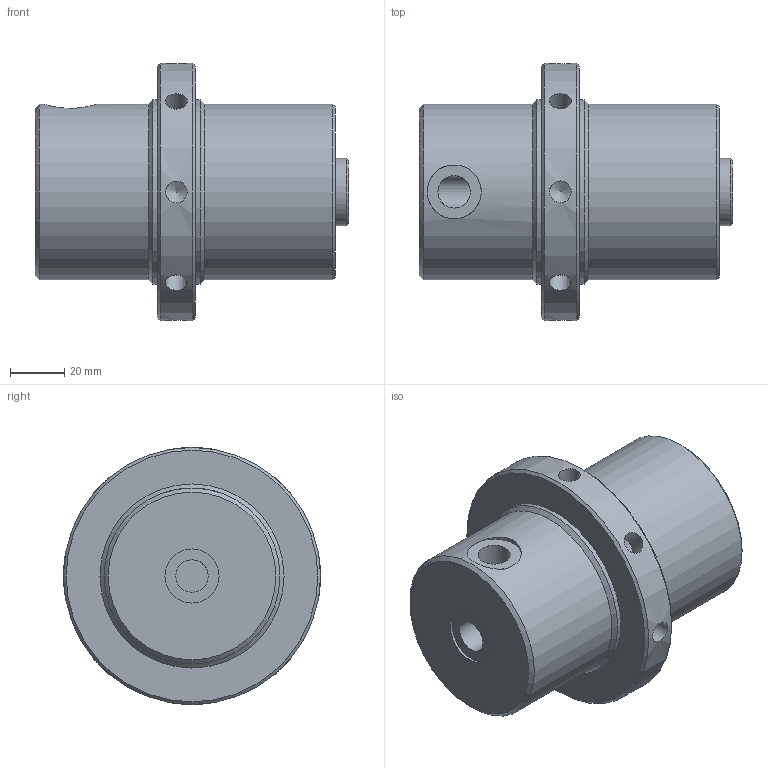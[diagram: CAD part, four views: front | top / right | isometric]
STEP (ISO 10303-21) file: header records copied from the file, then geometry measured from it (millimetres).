
FILE_DESCRIPTION( ( 'Unknown' ), '1' );
FILE_NAME( 'F:/JAKOB-STEP+IGES-Dateien/STEP-Dateien/ZSF/ZSF 2500 - 2.stp', 'Unknown', ( 'Unknown' ), ( 'Unknown' ), 'XStep 1.0', 'Unknown', ' ' );
FILE_SCHEMA( ( 'CONFIG_CONTROL_DESIGN' ) );
Length unit declared in the file: millimetre
Products named in the file (1): 1
Bounding box: 116 x 95 x 95 mm (x, y, z)
Volume: 406526.1 mm3; surface area: 42917.2 mm2
Topology: 1 solids, 1 shells, 46 faces, 115 edges, 74 vertices
Faces by surface type: cylinder 20, cone 18, plane 8
Full cylindrical faces by diameter (mm): 8 x8, 12 x2, 16.5 x1, 20 x1, 25 x1, 65 x2, 68 x2, 95 x1
Entity records: 1604 total; most frequent: CARTESIAN_POINT 750, DIRECTION 172, ORIENTED_EDGE 100, EDGE_LOOP 90, AXIS2_PLACEMENT_3D 85, FACE_OUTER_BOUND 64, VERTEX_POINT 57, EDGE_CURVE 50
